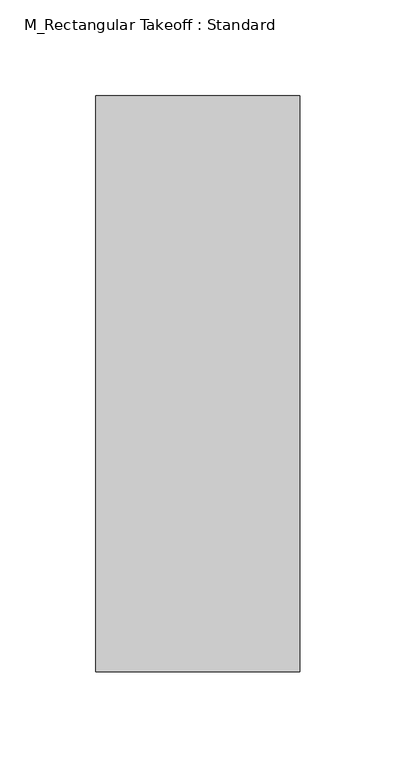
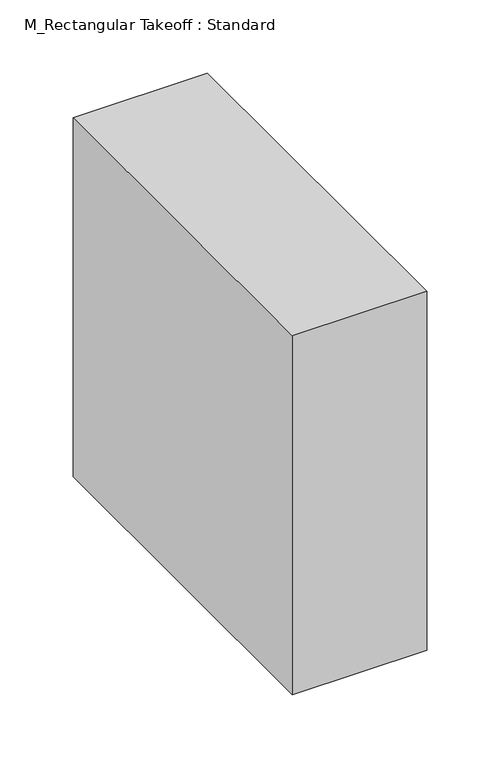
"""IFC4 building model written with IfcOpenShell, lengths in millimetres: duct fitting geometry, M_Rectangular Takeoff : Standard."""

from ifc_helpers import new_model, si_unit, frame, origin, place, context, project, spatial, polyline, outline, extrude, source, transform, mapped, element, save


def m_rectangular_takeoff_standard_befb60c5(model_context):
    return source(origin(), model_context, "Body", "SweptSolid", [
        extrude(outline(polyline([(-6.0983181, 150.0), (100.0023181, 150.0), (100.0023181, -150.0), (-6.0983181, -150.0), (-6.0983181, 150.0)])), frame((0.0, 0.0, -150.0), z_axis=(0.0, 0.0, 1.0), x_axis=(1.0, 0.0, 0.0)), (0.0, 0.0, 1.0), 300.0),
        extrude(outline(polyline([(-6.0983181, 150.0), (100.0023181, 150.0), (100.0023181, -150.0), (-6.0983181, -150.0), (-6.0983181, 150.0)])), frame((0.0, 0.0, -150.0), z_axis=(0.0, 0.0, 1.0), x_axis=(1.0, 0.0, 0.0)), (0.0, 0.0, 1.0), 300.0),
        extrude(outline(polyline([(-6.0983181, 150.0), (100.0023181, 150.0), (100.0023181, -150.0), (-6.0983181, -150.0), (-6.0983181, 150.0)])), frame((0.0, 0.0, -150.0), z_axis=(0.0, 0.0, 1.0), x_axis=(1.0, 0.0, 0.0)), (0.0, 0.0, 1.0), 300.0),
    ])


if __name__ == "__main__":
    model = new_model("IFC4")
    model_context = context("Model", 3, world=origin())
    ifc_project = project(units=[si_unit("LENGTHUNIT", "METRE", prefix="MILLI")], contexts=[model_context])
    site = spatial("IfcSite", under=ifc_project)
    building = spatial("IfcBuilding", under=site)
    placement = place(None, origin())
    m_rectangular_takeoff_standard_shape = m_rectangular_takeoff_standard_befb60c5(model_context)
    element("IfcDuctFitting", 1, ObjectType="M_Rectangular Takeoff : Standard", at=placement, inside=building, context=model_context, shape_type="MappedRepresentation", body=[
        mapped(m_rectangular_takeoff_standard_shape, transform((0.0, 0.0, 0.0), x_axis=(1.0, 0.0, 0.0), y_axis=(0.0, 1.0, 0.0), z_axis=(0.0, 0.0, 1.0))),
    ])
    save(model, "model.ifc")
